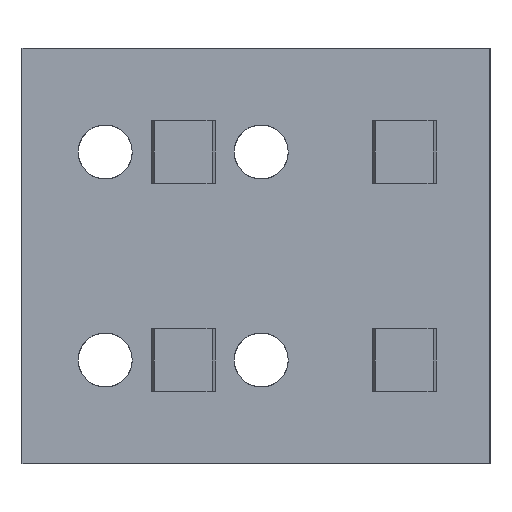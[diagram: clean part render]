
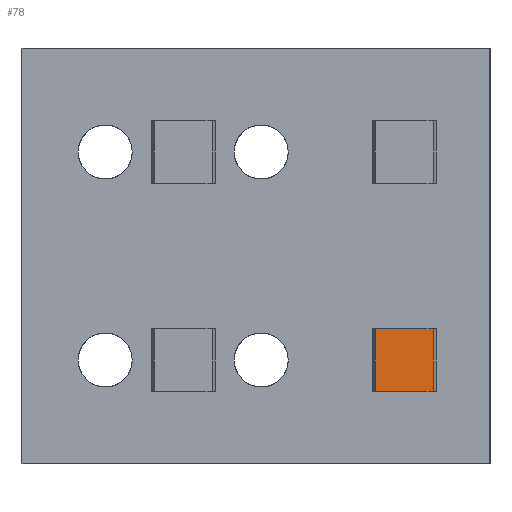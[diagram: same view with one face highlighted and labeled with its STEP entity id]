
A CAD part, left-side view. The second image highlights one B-rep face of the part: STEP entity #78.
In plain terms, the highlighted planar face has unit normal (-1, 0, 0) as drawn and (1, 0, 0) by its records, which use the part's own axes.
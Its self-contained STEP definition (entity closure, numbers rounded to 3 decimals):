
#78=ADVANCED_FACE('',(#129),#1766,.T.);
#129=FACE_OUTER_BOUND('',#202,.T.);
#202=EDGE_LOOP('',(#379,#380,#381,#382));
#379=ORIENTED_EDGE('',*,*,#1568,.F.);
#380=ORIENTED_EDGE('',*,*,#1571,.T.);
#381=ORIENTED_EDGE('',*,*,#1572,.T.);
#382=ORIENTED_EDGE('',*,*,#1573,.T.);
#682=B_SPLINE_CURVE_WITH_KNOTS('',1,(#7370,#7371),.UNSPECIFIED.,.F.,.F.,
(2,2),(-13.392,-7.839),.UNSPECIFIED.);
#683=B_SPLINE_CURVE_WITH_KNOTS('',1,(#7372,#7373),.UNSPECIFIED.,.F.,.F.,
(2,2),(-13.392,-7.839),.UNSPECIFIED.);
#689=B_SPLINE_CURVE_WITH_KNOTS('',1,(#7384,#7385),.UNSPECIFIED.,.F.,.F.,
(2,2),(-13.392,-7.839),.UNSPECIFIED.);
#690=B_SPLINE_CURVE_WITH_KNOTS('',1,(#7386,#7387),.UNSPECIFIED.,.F.,.F.,
(2,2),(0.,6.),.UNSPECIFIED.);
#691=B_SPLINE_CURVE_WITH_KNOTS('',1,(#7388,#7389),.UNSPECIFIED.,.F.,.F.,
(2,2),(0.,6.),.UNSPECIFIED.);
#692=B_SPLINE_CURVE_WITH_KNOTS('',1,(#7390,#7391),.UNSPECIFIED.,.F.,.F.,
(2,2),(-13.392,-7.839),.UNSPECIFIED.);
#693=B_SPLINE_CURVE_WITH_KNOTS('',1,(#7392,#7393),.UNSPECIFIED.,.F.,.F.,
(2,2),(-13.392,-7.839),.UNSPECIFIED.);
#694=B_SPLINE_CURVE_WITH_KNOTS('',1,(#7394,#7395),.UNSPECIFIED.,.F.,.F.,
(2,2),(-6.,0.),.UNSPECIFIED.);
#695=B_SPLINE_CURVE_WITH_KNOTS('',1,(#7396,#7397),.UNSPECIFIED.,.F.,.F.,
(2,2),(-6.,0.),.UNSPECIFIED.);
#701=B_SPLINE_CURVE_WITH_KNOTS('',1,(#7408,#7409),.UNSPECIFIED.,.F.,.F.,
(2,2),(-13.392,-7.839),.UNSPECIFIED.);
#703=B_SPLINE_CURVE_WITH_KNOTS('',1,(#7412,#7413),.UNSPECIFIED.,.F.,.F.,
(2,2),(-6.,0.),.UNSPECIFIED.);
#708=B_SPLINE_CURVE_WITH_KNOTS('',1,(#7422,#7423),.UNSPECIFIED.,.F.,.F.,
(2,2),(0.,6.),.UNSPECIFIED.);
#972=PCURVE('',#1765,#1230);
#976=PCURVE('',#1766,#1234);
#977=PCURVE('',#1766,#1235);
#978=PCURVE('',#1766,#1236);
#979=PCURVE('',#1766,#1237);
#983=PCURVE('',#1767,#1241);
#985=PCURVE('',#1768,#1243);
#990=PCURVE('',#1769,#1248);
#1230=DEFINITIONAL_REPRESENTATION('',(#683),#7661);
#1234=DEFINITIONAL_REPRESENTATION('',(#689),#7661);
#1235=DEFINITIONAL_REPRESENTATION('',(#691),#7661);
#1236=DEFINITIONAL_REPRESENTATION('',(#693),#7661);
#1237=DEFINITIONAL_REPRESENTATION('',(#695),#7661);
#1241=DEFINITIONAL_REPRESENTATION('',(#701),#7661);
#1243=DEFINITIONAL_REPRESENTATION('',(#703),#7661);
#1248=DEFINITIONAL_REPRESENTATION('',(#708),#7661);
#1439=SURFACE_CURVE('',#682,(#972,#976),.PCURVE_S1.);
#1442=SURFACE_CURVE('',#690,(#977,#990),.PCURVE_S1.);
#1443=SURFACE_CURVE('',#692,(#978,#983),.PCURVE_S1.);
#1444=SURFACE_CURVE('',#694,(#979,#985),.PCURVE_S1.);
#1568=EDGE_CURVE('',#1686,#1688,#1439,.T.);
#1571=EDGE_CURVE('',#1686,#1687,#1442,.T.);
#1572=EDGE_CURVE('',#1687,#1689,#1443,.T.);
#1573=EDGE_CURVE('',#1689,#1688,#1444,.T.);
#1686=VERTEX_POINT('',#2280);
#1687=VERTEX_POINT('',#2281);
#1688=VERTEX_POINT('',#2282);
#1689=VERTEX_POINT('',#2283);
#1765=PLANE('',#1841);
#1766=PLANE('',#1842);
#1767=PLANE('',#1843);
#1768=PLANE('',#1844);
#1769=PLANE('',#1845);
#1841=AXIS2_PLACEMENT_3D('',#2078,#1882,$);
#1842=AXIS2_PLACEMENT_3D('',#2079,#1883,$);
#1843=AXIS2_PLACEMENT_3D('',#2080,#1884,$);
#1844=AXIS2_PLACEMENT_3D('',#2081,#1885,$);
#1845=AXIS2_PLACEMENT_3D('',#2082,#1886,$);
#1882=DIRECTION('',(0.,0.,-1.));
#1883=DIRECTION('',(1.,0.,0.));
#1884=DIRECTION('',(0.,0.,1.));
#1885=DIRECTION('',(0.342,-0.94,0.));
#1886=DIRECTION('',(0.342,0.94,0.));
#2078=CARTESIAN_POINT('',(0.,5.182,7.));
#2079=CARTESIAN_POINT('',(0.8,11.027,7.));
#2080=CARTESIAN_POINT('',(0.,5.182,13.));
#2081=CARTESIAN_POINT('',(0.8,5.473,7.));
#2082=CARTESIAN_POINT('',(0.,11.318,7.));
#2280=CARTESIAN_POINT('',(0.8,11.027,7.));
#2281=CARTESIAN_POINT('',(0.8,11.027,13.));
#2282=CARTESIAN_POINT('',(0.8,5.473,7.));
#2283=CARTESIAN_POINT('',(0.8,5.473,13.));
#7370=CARTESIAN_POINT('',(0.8,11.027,7.));
#7371=CARTESIAN_POINT('',(0.8,5.473,7.));
#7372=CARTESIAN_POINT('',(0.,0.));
#7373=CARTESIAN_POINT('',(-5.554,0.));
#7384=CARTESIAN_POINT('',(0.,-13.392));
#7385=CARTESIAN_POINT('',(0.,-7.839));
#7386=CARTESIAN_POINT('',(0.8,11.027,7.));
#7387=CARTESIAN_POINT('',(0.8,11.027,13.));
#7388=CARTESIAN_POINT('',(0.,-13.392));
#7389=CARTESIAN_POINT('',(6.,-13.392));
#7390=CARTESIAN_POINT('',(0.8,11.027,13.));
#7391=CARTESIAN_POINT('',(0.8,5.473,13.));
#7392=CARTESIAN_POINT('',(6.,-13.392));
#7393=CARTESIAN_POINT('',(6.,-7.839));
#7394=CARTESIAN_POINT('',(0.8,5.473,13.));
#7395=CARTESIAN_POINT('',(0.8,5.473,7.));
#7396=CARTESIAN_POINT('',(6.,-7.839));
#7397=CARTESIAN_POINT('',(0.,-7.839));
#7408=CARTESIAN_POINT('',(0.,0.));
#7409=CARTESIAN_POINT('',(0.,-5.554));
#7412=CARTESIAN_POINT('',(6.,-7.839));
#7413=CARTESIAN_POINT('',(0.,-7.839));
#7422=CARTESIAN_POINT('',(0.,0.));
#7423=CARTESIAN_POINT('',(6.,0.));
#7661=(
GEOMETRIC_REPRESENTATION_CONTEXT(2)
PARAMETRIC_REPRESENTATION_CONTEXT()
REPRESENTATION_CONTEXT('pspace','')
);
